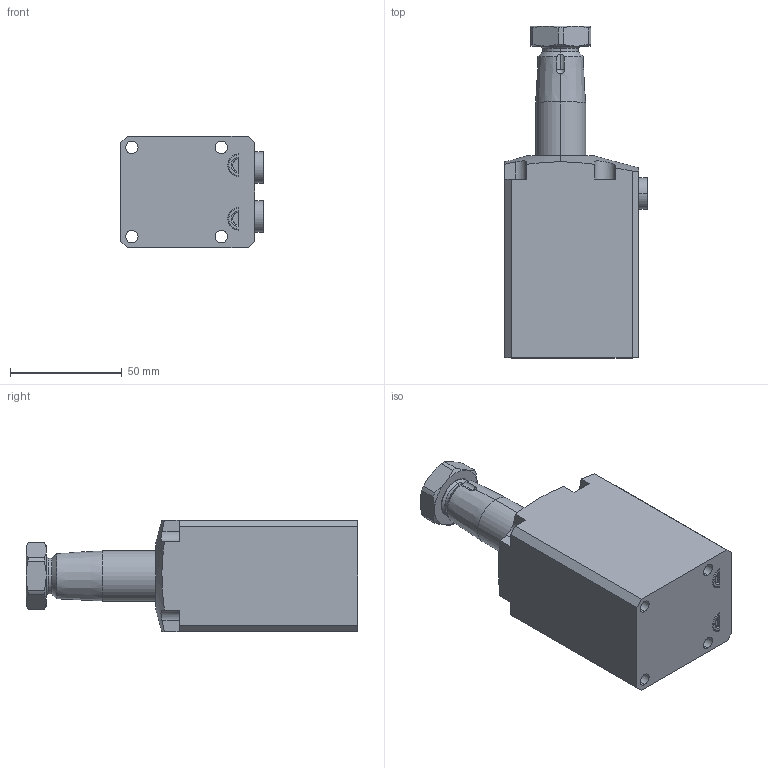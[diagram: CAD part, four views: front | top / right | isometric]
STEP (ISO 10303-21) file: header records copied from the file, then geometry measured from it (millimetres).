
FILE_DESCRIPTION(/* description */ (''),/* implementation_level */ '2;1');
FILE_NAME(/* name */ 'BRC04-L.stp',/* time_stamp */ '2025-01-04T14:06:34+08:00',/* author */ (''),/* organization */ (''),/* preprocessor_version */ 'ST-DEVELOPER v16.7',/* originating_system */ 'SIEMENS PLM Software NX 12.0',/* authorisation */ '');
FILE_SCHEMA (('AUTOMOTIVE_DESIGN { 1 0 10303 214 3 1 1 1 }'));
Length unit declared in the file: millimetre
Products named in the file (5): BRC04-L-04; BRC04-L-03; BRC04-L-02; BRC04-L-01; BTU04-L_step
Assembly tree (5 placements, depth 2):
  BTU04-L_step
    BRC04-L-01
    BRC04-L-02
    BRC04-L-03  x2
    BRC04-L-04
Bounding box: 63.8 x 148.5 x 50 mm (x, y, z)
Volume: 269617.1 mm3; surface area: 40645.2 mm2
Topology: 7 solids, 7 shells, 170 faces, 395 edges, 248 vertices
Faces by surface type: plane 72, cylinder 53, cone 34, torus 10, sphere 1
Full cylindrical faces by diameter (mm): 8.5 x2
Entity records: 4745 total; most frequent: CARTESIAN_POINT 1170, DIRECTION 722, ORIENTED_EDGE 700, EDGE_CURVE 350, AXIS2_PLACEMENT_3D 281, VERTEX_POINT 222, EDGE_LOOP 174, LINE 160
